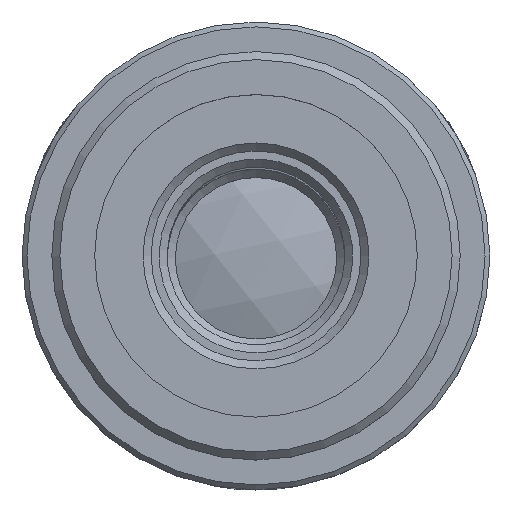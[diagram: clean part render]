
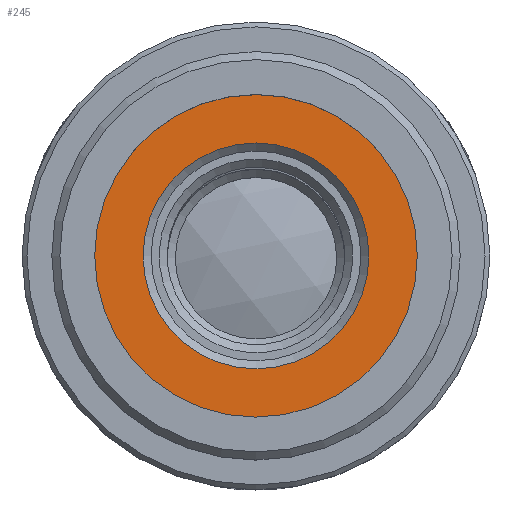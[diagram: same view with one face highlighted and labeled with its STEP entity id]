
A CAD part, top view. The second image highlights one B-rep face of the part: STEP entity #245.
In plain terms, the highlighted planar face has unit normal (0, 0, 1).
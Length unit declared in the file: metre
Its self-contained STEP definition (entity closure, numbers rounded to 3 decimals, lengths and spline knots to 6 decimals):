
#245=ADVANCED_FACE('0:245790',(#595,#596),#597,.F.);
#595=FACE_BOUND('',#1121,.T.);
#596=FACE_OUTER_BOUND('',#1122,.T.);
#597=PLANE('',#1123);
#1121=EDGE_LOOP('',(#1780));
#1122=EDGE_LOOP('',(#1781));
#1123=AXIS2_PLACEMENT_3D('',#1782,#1783,#1784);
#1780=ORIENTED_EDGE('',*,*,#2615,.T.);
#1781=ORIENTED_EDGE('',*,*,#2616,.F.);
#1782=CARTESIAN_POINT('',(-0.005496,0.009136,0.0559));
#1783=DIRECTION('',(0.,0.,-1.0));
#1784=DIRECTION('',(0.483,-0.875,0.));
#2615=EDGE_CURVE('0:246129',#3028,#3028,#3029,.T.);
#2616=EDGE_CURVE('0:246099',#3030,#3030,#3031,.T.);
#3028=VERTEX_POINT('',#3780);
#3029=CIRCLE('',#3781,0.007);
#3030=VERTEX_POINT('',#3782);
#3031=CIRCLE('',#3783,0.01);
#3780=CARTESIAN_POINT('',(-0.012501,-0.00086,0.0559));
#3781=AXIS2_PLACEMENT_3D('',#4481,#4482,#4483);
#3782=CARTESIAN_POINT('',(-0.015501,-0.000859,0.0559));
#3783=AXIS2_PLACEMENT_3D('',#4484,#4485,#4486);
#4481=CARTESIAN_POINT('',(-0.005501,-0.000864,0.0559));
#4482=DIRECTION('',(0.,0.,-1.0));
#4483=DIRECTION('',(-1.,0.001,0.));
#4484=CARTESIAN_POINT('',(-0.005501,-0.000864,0.0559));
#4485=DIRECTION('',(0.,0.,-1.0));
#4486=DIRECTION('',(-1.,0.001,0.));
